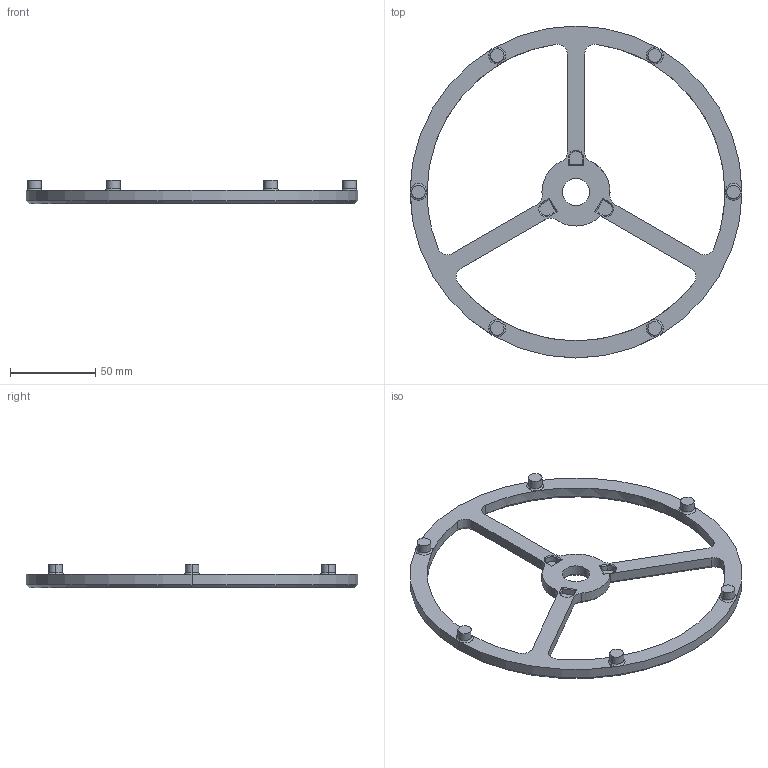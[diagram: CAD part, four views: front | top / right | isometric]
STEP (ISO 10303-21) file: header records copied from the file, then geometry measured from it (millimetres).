
FILE_DESCRIPTION (( 'STEP AP214' ), '1' );
FILE_NAME ('Ferris Wheel - Wheel.STEP', '2022-06-13T02:42:59', ( '' ), ( '' ), 'SwSTEP 2.0', 'SolidWorks 2020', '' );
FILE_SCHEMA (( 'AUTOMOTIVE_DESIGN' ));
Length unit declared in the file: millimetre
Products named in the file (1): Ferris Wheel - Wheel
Bounding box: 195 x 195 x 14 mm (x, y, z)
Volume: 69566.7 mm3; surface area: 30460.2 mm2
Topology: 1 solids, 1 shells, 126 faces, 298 edges, 174 vertices
Faces by surface type: plane 44, cylinder 41, cone 29, torus 12
Entity records: 3654 total; most frequent: DIRECTION 704, CARTESIAN_POINT 602, ORIENTED_EDGE 596, EDGE_CURVE 298, AXIS2_PLACEMENT_3D 280, VERTEX_POINT 174, CIRCLE 153, LINE 144
